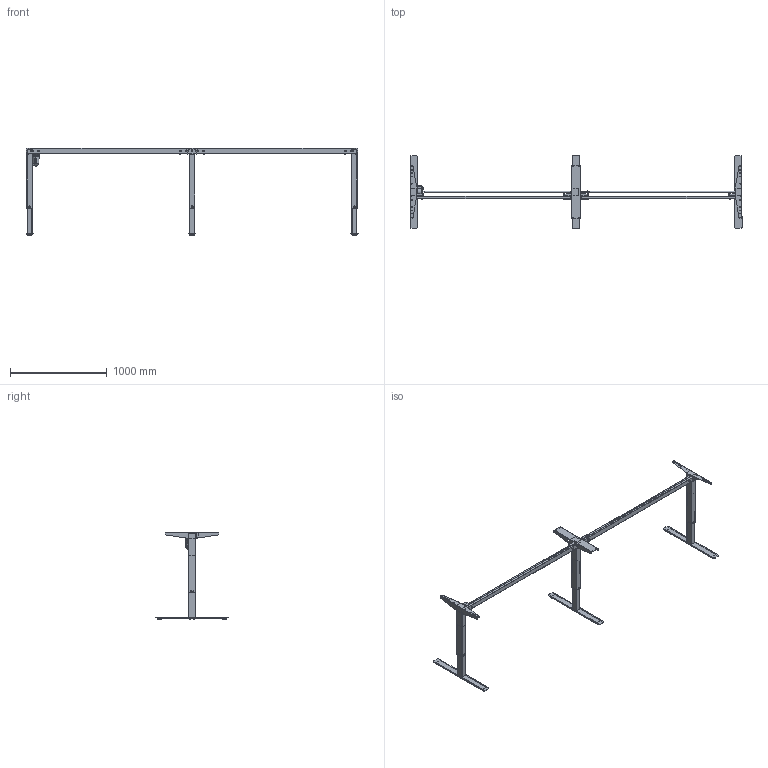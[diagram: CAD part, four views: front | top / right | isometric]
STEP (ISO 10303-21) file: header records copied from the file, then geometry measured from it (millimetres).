
FILE_DESCRIPTION (( 'STEP AP203' ), '1' );
FILE_NAME ('Tech-draw_501-47_XX342.STEP', '2020-12-21T07:46:06', ( '' ), ( '' ), 'SwSTEP 2.0', 'SolidWorks 2020', '' );
FILE_SCHEMA (( 'CONFIG_CONTROL_DESIGN' ));
Length unit declared in the file: millimetre
Products named in the file (46): 324520; 150690; 151440_chrome; 340760; 352140_shell view; 340560; 332570; 326900; 140860_chrome1; 352150; 352200; Tech-draw_501-47_XX342; 324520_silver; 150650_chrome; 341220; 352360_silver; 140850_chrome1; 352350_silver; 345600; 345610_shell view; 150610_chrome1; 348720_shell view; 352190; 340540_shell view; 150600_chrome; 352300_shell view; 352610; 151670_501-47 XC342; 352130; 150630_chrome; 352370; 347910_172; 304650; 344820_shell view; 144260_172; 347920_172; 341800; 150660_chrome; 344430_silver; 151180_chrome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
Assembly tree (97 placements, depth 5):
  Tech-draw_501-47_XX342
    151670_501-47 XC342
      150600_chrome
        150610_chrome1
          345600
          352140_shell view
          352130
        151180_chrome
          352370
          352690
        324520  x2
        341800  x2
        150690
          352190
          352200
        352350_silver
        352360_silver
        151440_chrome
          352160
          352150
        304650  x4
      347910_172  x2
      144260_172
        347920_172
        340560
        341220
      144260_172
        347920_172
        340560
        341220
      150650_chrome
        140860_chrome1
          345610_shell view
          344820_shell view
          348720_shell view
        150630_chrome
          352300_shell view
          352690
        324520_silver  x2
        341800  x2
        326900  x2
        344430_silver
        352360_silver
        352350_silver
        151440_chrome
          352160
          352150
        304650  x4
        352610
      150660_chrome
        140850_chrome1
          345600
          344820_shell view
          340540_shell view
        150630_chrome
          352300_shell view
          352690
        324520  x2
        341800  x2
        352350_silver
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Bounding box: 3433 x 750 x 901.26 mm (x, y, z)
Volume: 4729933.3 mm3; surface area: 4426034.9 mm2
Topology: 81 solids, 81 shells, 7295 faces, 18916 edges, 12006 vertices
Faces by surface type: plane 3787, cylinder 2153, bspline 850, cone 275, torus 182, sphere 48
Full cylindrical faces by diameter (mm): 2.8 x6, 3 x4, 3.3 x2, 4.6 x8, 5 x46, 6 x32, 6.7 x12, 7 x16, 7.6 x8, 8 x24, 8.2 x2, 8.5 x2, 10 x17, 11.9 x4, 12 x2, 13 x4, 15 x7, 16 x3, 18 x2, 20 x4, 24 x1, 37.6 x12, 60 x1
Entity records: 145819 total; most frequent: CARTESIAN_POINT 58394, ORIENTED_EDGE 17438, DIRECTION 15998, EDGE_CURVE 8719, VERTEX_POINT 5653, AXIS2_PLACEMENT_3D 5588, LINE 4822, VECTOR 4822
